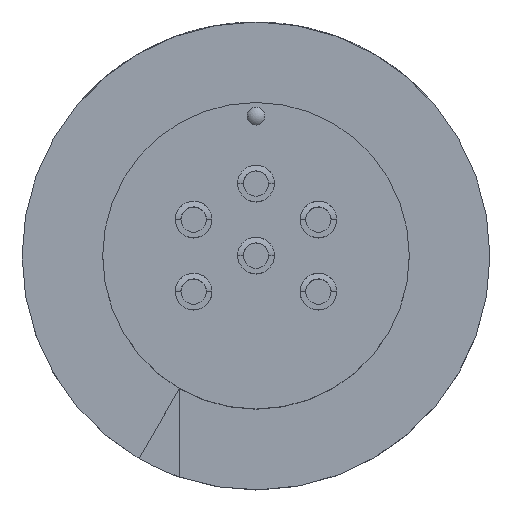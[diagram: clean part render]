
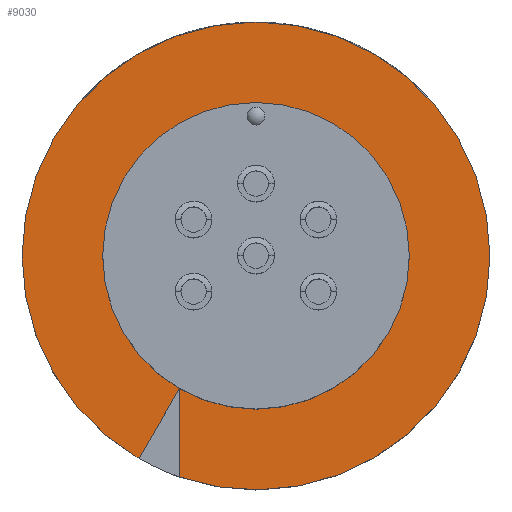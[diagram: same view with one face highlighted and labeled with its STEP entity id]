
A CAD part, top view. The second image highlights one B-rep face of the part: STEP entity #9030.
In plain terms, the highlighted planar face has unit normal (0, 0, 1).
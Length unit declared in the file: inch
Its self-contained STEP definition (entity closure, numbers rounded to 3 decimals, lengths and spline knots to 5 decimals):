
#70 = VERTEX_POINT ( 'NONE', #8259 ) ;
#422 = DIRECTION ( 'NONE',  ( 1., 0., 0. ) ) ;
#439 = VERTEX_POINT ( 'NONE', #6046 ) ;
#950 = CARTESIAN_POINT ( 'NONE',  ( 0., 0., -0.187 ) ) ;
#988 = CIRCLE ( 'NONE', #4349, 0.406 ) ;
#1018 = CARTESIAN_POINT ( 'NONE',  ( 0., 0., -0.187 ) ) ;
#1451 = DIRECTION ( 'NONE',  ( 0., 0., 1. ) ) ;
#1587 = ORIENTED_EDGE ( 'NONE', *, *, #7257, .F. ) ;
#1720 = EDGE_CURVE ( 'NONE', #70, #11644, #14359, .T. ) ;
#1880 = VERTEX_POINT ( 'NONE', #12733 ) ;
#2235 = DIRECTION ( 'NONE',  ( 1., 0., 0. ) ) ;
#2244 = DIRECTION ( 'NONE',  ( 0., 0., 1. ) ) ;
#2263 = CARTESIAN_POINT ( 'NONE',  ( 0., 0., -0.187 ) ) ;
#2807 = VERTEX_POINT ( 'NONE', #13665 ) ;
#3050 = VERTEX_POINT ( 'NONE', #14252 ) ;
#3208 = DIRECTION ( 'NONE',  ( 1., 0., 0. ) ) ;
#4107 = DIRECTION ( 'NONE',  ( 0., 0., 1. ) ) ;
#4163 = AXIS2_PLACEMENT_3D ( 'NONE', #11065, #10855, #10842 ) ;
#4209 = EDGE_CURVE ( 'NONE', #11644, #13916, #7403, .T. ) ;
#4349 = AXIS2_PLACEMENT_3D ( 'NONE', #950, #4107, #3208 ) ;
#4430 = ORIENTED_EDGE ( 'NONE', *, *, #7061, .F. ) ;
#5160 = CIRCLE ( 'NONE', #7699, 0.266 ) ;
#5256 = ORIENTED_EDGE ( 'NONE', *, *, #11199, .F. ) ;
#5728 = ORIENTED_EDGE ( 'NONE', *, *, #13162, .T. ) ;
#5813 = EDGE_CURVE ( 'NONE', #439, #2807, #13960, .T. ) ;
#5985 = CARTESIAN_POINT ( 'NONE',  ( -0.133, -0.3836, -0.187 ) ) ;
#6004 = CARTESIAN_POINT ( 'NONE',  ( -0.133, -0.23036, -0.187 ) ) ;
#6046 = CARTESIAN_POINT ( 'NONE',  ( -0.133, -0.3836, -0.187 ) ) ;
#6091 = CARTESIAN_POINT ( 'NONE',  ( -0.133, -0.23036, -0.187 ) ) ;
#6114 = CARTESIAN_POINT ( 'NONE',  ( -0.203, -0.35161, -0.187 ) ) ;
#7053 = AXIS2_PLACEMENT_3D ( 'NONE', #9731, #9725, #9714 ) ;
#7061 = EDGE_CURVE ( 'NONE', #2807, #3050, #5160, .T. ) ;
#7257 = EDGE_CURVE ( 'NONE', #3050, #1880, #11918, .T. ) ;
#7403 = CIRCLE ( 'NONE', #11691, 0.406 ) ;
#7699 = AXIS2_PLACEMENT_3D ( 'NONE', #11457, #11441, #11428 ) ;
#8032 = CARTESIAN_POINT ( 'NONE',  ( -0.406, 0., -0.187 ) ) ;
#8258 = B_SPLINE_CURVE_WITH_KNOTS ( 'NONE', 1,
 ( #6114, #6091 ),
 .UNSPECIFIED., .F., .F.,
 ( 2, 2 ),
 ( 0., 1. ),
 .UNSPECIFIED. ) ;
#8259 = CARTESIAN_POINT ( 'NONE',  ( 0.406, 0., -0.187 ) ) ;
#8377 = ORIENTED_EDGE ( 'NONE', *, *, #9551, .T. ) ;
#9030 = ADVANCED_FACE ( 'NONE', ( #10938 ), #10870, .T. ) ;
#9530 = EDGE_LOOP ( 'NONE', ( #8377, #5256, #1587, #4430, #14119, #5728, #12224, #9773 ) ) ;
#9551 = EDGE_CURVE ( 'NONE', #13916, #2807, #8258, .T. ) ;
#9714 = DIRECTION ( 'NONE',  ( 1., 0., 0. ) ) ;
#9725 = DIRECTION ( 'NONE',  ( 0., 0., 1. ) ) ;
#9731 = CARTESIAN_POINT ( 'NONE',  ( 0., 0., -0.187 ) ) ;
#9773 = ORIENTED_EDGE ( 'NONE', *, *, #4209, .T. ) ;
#10448 = DIRECTION ( 'NONE',  ( 1., 0., 0. ) ) ;
#10465 = DIRECTION ( 'NONE',  ( 0., 0., 1. ) ) ;
#10467 = CARTESIAN_POINT ( 'NONE',  ( 0., 0., -0.187 ) ) ;
#10639 = CIRCLE ( 'NONE', #14127, 0.266 ) ;
#10842 = DIRECTION ( 'NONE',  ( 1., 0., 0. ) ) ;
#10855 = DIRECTION ( 'NONE',  ( 0., 0., 1. ) ) ;
#10870 = PLANE ( 'NONE',  #4163 ) ;
#10938 = FACE_OUTER_BOUND ( 'NONE', #9530, .T. ) ;
#11065 = CARTESIAN_POINT ( 'NONE',  ( 0., 0., -0.187 ) ) ;
#11199 = EDGE_CURVE ( 'NONE', #1880, #2807, #10639, .T. ) ;
#11428 = DIRECTION ( 'NONE',  ( 1., 0., 0. ) ) ;
#11441 = DIRECTION ( 'NONE',  ( 0., 0., 1. ) ) ;
#11457 = CARTESIAN_POINT ( 'NONE',  ( 0., 0., -0.187 ) ) ;
#11644 = VERTEX_POINT ( 'NONE', #8032 ) ;
#11646 = CARTESIAN_POINT ( 'NONE',  ( -0.203, -0.35161, -0.187 ) ) ;
#11691 = AXIS2_PLACEMENT_3D ( 'NONE', #2263, #2244, #2235 ) ;
#11918 = CIRCLE ( 'NONE', #7053, 0.266 ) ;
#12224 = ORIENTED_EDGE ( 'NONE', *, *, #1720, .T. ) ;
#12733 = CARTESIAN_POINT ( 'NONE',  ( -0.266, 0., -0.187 ) ) ;
#13162 = EDGE_CURVE ( 'NONE', #439, #70, #988, .T. ) ;
#13665 = CARTESIAN_POINT ( 'NONE',  ( -0.133, -0.23036, -0.187 ) ) ;
#13804 = AXIS2_PLACEMENT_3D ( 'NONE', #1018, #1451, #422 ) ;
#13916 = VERTEX_POINT ( 'NONE', #11646 ) ;
#13960 = B_SPLINE_CURVE_WITH_KNOTS ( 'NONE', 1,
 ( #5985, #6004 ),
 .UNSPECIFIED., .F., .F.,
 ( 2, 2 ),
 ( 0., 1. ),
 .UNSPECIFIED. ) ;
#14119 = ORIENTED_EDGE ( 'NONE', *, *, #5813, .F. ) ;
#14127 = AXIS2_PLACEMENT_3D ( 'NONE', #10467, #10465, #10448 ) ;
#14252 = CARTESIAN_POINT ( 'NONE',  ( 0.266, 0., -0.187 ) ) ;
#14359 = CIRCLE ( 'NONE', #13804, 0.406 ) ;
